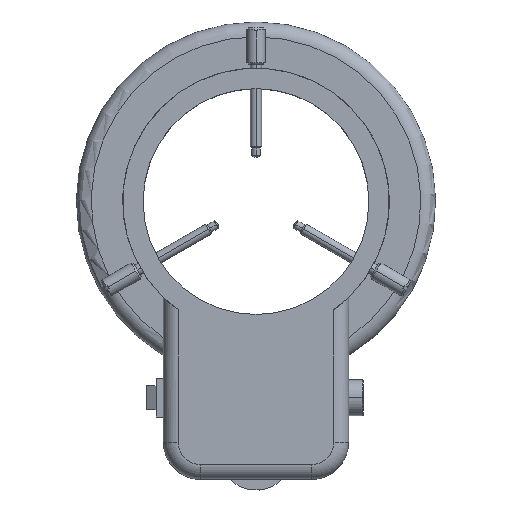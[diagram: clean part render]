
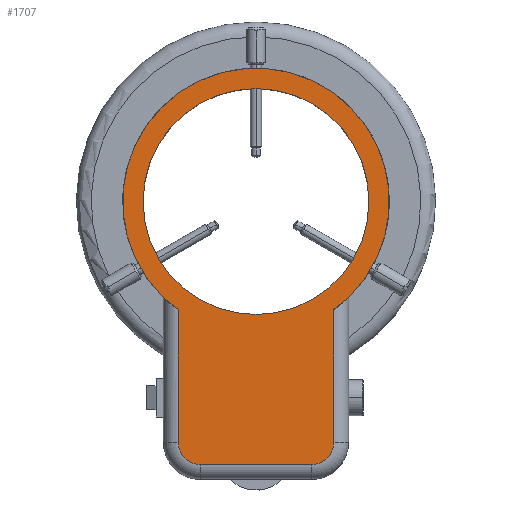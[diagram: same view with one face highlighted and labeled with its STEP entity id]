
A CAD part, top view. The second image highlights one B-rep face of the part: STEP entity #1707.
In plain terms, the highlighted planar face has unit normal (0, 0, 1).
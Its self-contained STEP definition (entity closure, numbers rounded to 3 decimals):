
#716=DIRECTION('',(0.,-1.,0.));
#717=VECTOR('',#716,35.76);
#718=CARTESIAN_POINT('',(1787.386,1193.874,0.));
#719=LINE('',#718,#717);
#735=DIRECTION('',(-1.,0.,0.));
#736=VECTOR('',#735,30.);
#737=CARTESIAN_POINT('',(1781.386,1152.115,0.));
#738=LINE('',#737,#736);
#758=CARTESIAN_POINT('',(1745.386,1193.874,0.));
#811=DIRECTION('',(0.,1.,0.));
#812=VECTOR('',#811,35.76);
#813=CARTESIAN_POINT('',(1745.386,1158.115,0.));
#814=LINE('',#813,#812);
#819=CARTESIAN_POINT('',(1781.386,1158.115,0.));
#820=DIRECTION('',(0.,0.,1.));
#821=DIRECTION('',(0.,-1.,0.));
#822=AXIS2_PLACEMENT_3D('',#819,#820,#821);
#824=CARTESIAN_POINT('',(1751.386,1158.115,0.));
#825=DIRECTION('',(0.,0.,1.));
#826=DIRECTION('',(-1.,0.,0.));
#827=AXIS2_PLACEMENT_3D('',#824,#825,#826);
#829=CARTESIAN_POINT('',(1766.386,1223.115,0.));
#830=DIRECTION('',(0.,0.,-1.));
#831=DIRECTION('',(-0.583,-0.812,0.));
#832=AXIS2_PLACEMENT_3D('',#829,#830,#831);
#834=CARTESIAN_POINT('',(1766.386,1223.115,0.));
#835=DIRECTION('',(0.,0.,-1.));
#836=DIRECTION('',(-1.,0.,0.));
#837=AXIS2_PLACEMENT_3D('',#834,#835,#836);
#839=CARTESIAN_POINT('',(1766.386,1223.115,0.));
#840=DIRECTION('',(0.,0.,-1.));
#841=DIRECTION('',(1.,0.,0.));
#842=AXIS2_PLACEMENT_3D('',#839,#840,#841);
#1433=VERTEX_POINT('',#758);
#1434=CARTESIAN_POINT('',(1787.386,1193.874,0.));
#1435=VERTEX_POINT('',#1434);
#1436=CARTESIAN_POINT('',(1787.386,1158.115,0.));
#1437=VERTEX_POINT('',#1436);
#1438=CARTESIAN_POINT('',(1745.386,1158.115,0.));
#1439=VERTEX_POINT('',#1438);
#1440=CARTESIAN_POINT('',(1751.386,1152.115,0.));
#1441=VERTEX_POINT('',#1440);
#1442=CARTESIAN_POINT('',(1781.386,1152.115,0.));
#1443=VERTEX_POINT('',#1442);
#1496=CARTESIAN_POINT('',(1796.886,1223.115,0.));
#1498=VERTEX_POINT('',#1496);
#1500=CARTESIAN_POINT('',(1735.886,1223.115,0.));
#1502=VERTEX_POINT('',#1500);
#1688=CARTESIAN_POINT('',(1751.386,1158.115,0.));
#1689=DIRECTION('',(0.,0.,-1.));
#1690=DIRECTION('',(-1.,0.,0.));
#1691=AXIS2_PLACEMENT_3D('',#1688,#1689,#1690);
#1692=PLANE('',#1691);
#1693=ORIENTED_EDGE('',*,*,#1626,.T.);
#1694=ORIENTED_EDGE('',*,*,#1638,.F.);
#1695=ORIENTED_EDGE('',*,*,#1652,.T.);
#1696=ORIENTED_EDGE('',*,*,#1666,.F.);
#1697=ORIENTED_EDGE('',*,*,#1680,.T.);
#1698=ORIENTED_EDGE('',*,*,#1604,.T.);
#1699=EDGE_LOOP('',(#1693,#1694,#1695,#1696,#1697,#1698));
#1700=FACE_OUTER_BOUND('',#1699,.F.);
#1702=ORIENTED_EDGE('',*,*,#1701,.F.);
#1704=ORIENTED_EDGE('',*,*,#1703,.F.);
#1705=EDGE_LOOP('',(#1702,#1704));
#1706=FACE_BOUND('',#1705,.F.);
#1707=ADVANCED_FACE('',(#1700,#1706),#1692,.F.);
#823=CIRCLE('',#822,6.);
#828=CIRCLE('',#827,6.);
#833=CIRCLE('',#832,36.);
#838=CIRCLE('',#837,30.5);
#843=CIRCLE('',#842,30.5);
#1604=EDGE_CURVE('',#1433,#1435,#833,.T.);
#1626=EDGE_CURVE('',#1435,#1437,#719,.T.);
#1638=EDGE_CURVE('',#1443,#1437,#823,.T.);
#1652=EDGE_CURVE('',#1443,#1441,#738,.T.);
#1666=EDGE_CURVE('',#1439,#1441,#828,.T.);
#1680=EDGE_CURVE('',#1439,#1433,#814,.T.);
#1701=EDGE_CURVE('',#1502,#1498,#838,.T.);
#1703=EDGE_CURVE('',#1498,#1502,#843,.T.);
